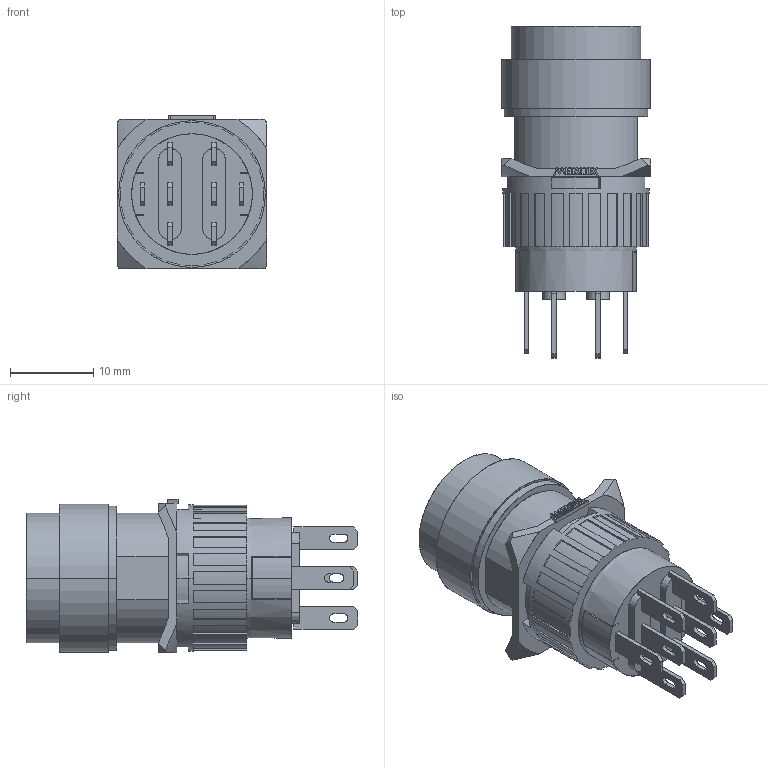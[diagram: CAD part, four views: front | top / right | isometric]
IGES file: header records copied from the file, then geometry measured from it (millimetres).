
Start section: SolidWorks IGES file using analytic representation for surfaces
Global section: file name: D:\X - Arquivos\PROEX\Empresas\P11 - METALTEX\01 - Produtos\IGES\Terceira remessa\Etapa 3\P16-BR.IGS; native system: SolidWorks 2012; preprocessor: SolidWorks 2012; author: Usuario; date: 180215.132136; units: millimetre
Bounding box: 18 x 39.9 x 18.5 mm (x, y, z)
Surface area: 3541.1 mm2 (no closed solid volume)
Topology: 0 solids, 0 shells, 386 faces, 2848 edges, 2848 vertices
Faces by surface type: bspline 295, revolution 91
